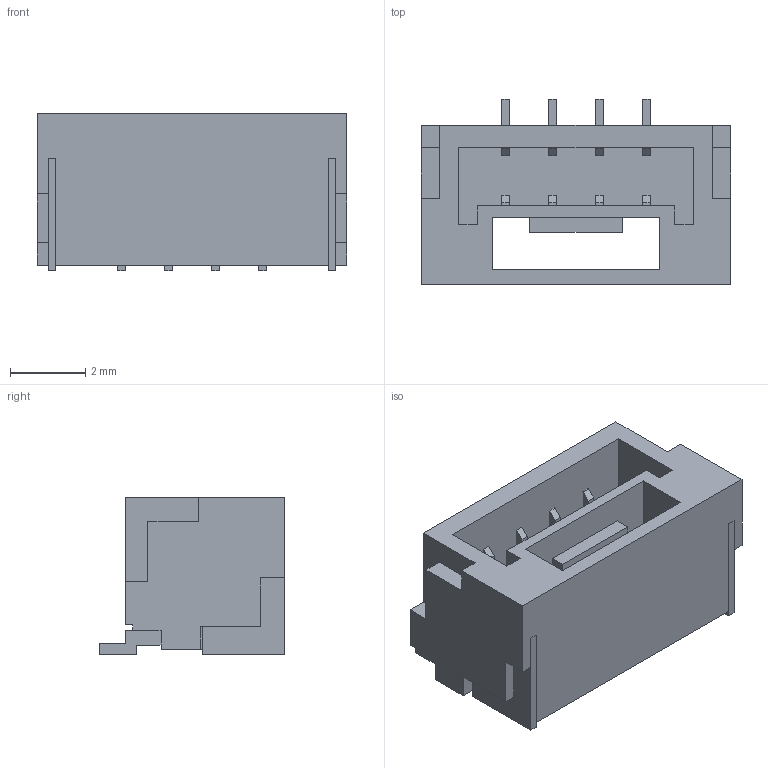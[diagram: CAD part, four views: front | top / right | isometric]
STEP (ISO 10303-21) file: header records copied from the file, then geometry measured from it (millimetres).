
FILE_DESCRIPTION (( 'STEP AP214' ), '1' );
FILE_NAME ('BM04B-GHS-TBT(LF)(SN).STEP', '2025-11-04T01:05:15', ( '' ), ( '' ), 'SwSTEP 2.0', 'SolidWorks 2023', '' );
FILE_SCHEMA (( 'AUTOMOTIVE_DESIGN' ));
Length unit declared in the file: millimetre
Products named in the file (7): BM04B-GHS-TBT.STEP; BM04B-GHS-TBT(LF)(SN); 1.STEP; Conn_JST_BM04B-GHS-TBT_LF_SN_eec.STEP; 2.STEP; JST Logo adjustable.STEP; 1-0.STEP
Assembly tree (6 placements, depth 4):
  BM04B-GHS-TBT(LF)(SN)
    Conn_JST_BM04B-GHS-TBT_LF_SN_eec.STEP
      1.STEP
        1-0.STEP
        BM04B-GHS-TBT.STEP
        2.STEP
        JST Logo adjustable.STEP
Bounding box: 8.25 x 4.95 x 4.2 mm (x, y, z)
Volume: 86 mm3; surface area: 337.1 mm2
Topology: 13 solids, 13 shells, 181 faces, 459 edges, 306 vertices
Faces by surface type: plane 174, cylinder 7
Entity records: 5642 total; most frequent: CARTESIAN_POINT 957, ORIENTED_EDGE 918, DIRECTION 857, EDGE_CURVE 459, LINE 445, VECTOR 445, VERTEX_POINT 306, AXIS2_PLACEMENT_3D 206
